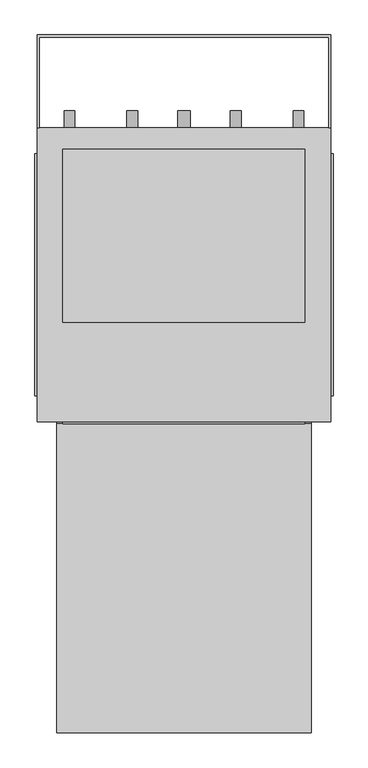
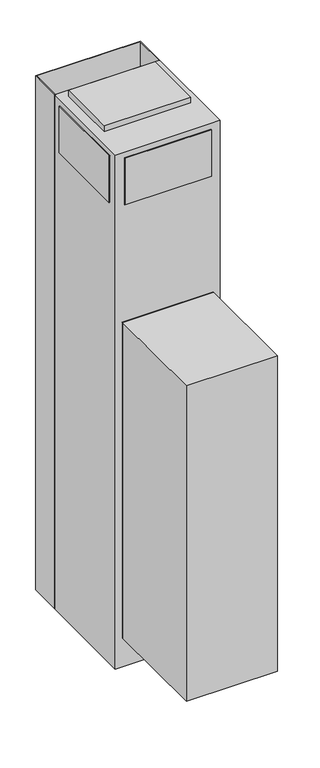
"""IFC4 building model written with IfcOpenShell, lengths in millimetres: proxy geometry, Exposed_Modular_Fan_Coil_Unit_-_MXY_-_IEC_-_4-Pipe_-_NoRisers_2022 : Size 03 - 277v/60Hz/1Ph - 4/1 Coil."""

from ifc_helpers import new_model, si_unit, point, frame, frame_2d, origin, origin_with_axes, place, context, project, spatial, polyline, circle_curve, trimmed, segment, composite_curve, outline, extrude, source, transform, mapped, element, save


def mechanical_equipment_4cf67427(model_context):
    return source(origin(), model_context, "Body", "SweptSolid", [
        extrude(outline(polyline([(1356.1480703, 439.8118862), (1346.2, 471.9852728), (1488.3709244, 471.9852728), (1465.3489183, 439.8118862), (1356.1480703, 439.8118862)])), frame((0.0, -193.675, 0.0), z_axis=(0.0, 1.0, 0.0), x_axis=(0.0, 0.0, 1.0)), (0.0, 0.0, 1.0), 3.175),
        extrude(outline(polyline([(1435.1473557, 478.7436058), (1431.9449632, 504.825), (1461.1738042, 504.825), (1469.2382193, 478.7436058), (1435.1473557, 478.7436058)])), frame((0.0, -193.675, 0.0), z_axis=(0.0, 1.0, 0.0), x_axis=(0.0, 0.0, 1.0)), (0.0, 0.0, 1.0), 3.175),
        extrude(outline(polyline([(1383.2838288, 504.825), (1379.6183279, 478.7436058), (1346.2, 478.7436058), (1354.8342372, 504.825), (1383.2838288, 504.825)])), frame((0.0, -193.675, 0.0), z_axis=(0.0, 1.0, 0.0), x_axis=(0.0, 0.0, 1.0)), (0.0, 0.0, 1.0), 3.175),
        extrude(outline(polyline([(1422.5989903, 504.825), (1424.8808166, 478.7436058), (1388.9432681, 478.7436058), (1391.6845331, 504.825), (1422.5989903, 504.825)])), frame((0.0, -193.675, 0.0), z_axis=(0.0, 1.0, 0.0), x_axis=(0.0, 0.0, 1.0)), (0.0, 0.0, 1.0), 3.175),
        extrude(outline(polyline([(555.625, -190.5), (555.625, -644.525), (180.975, -644.525), (180.975, -190.5), (555.625, -190.5)])), frame((0.0, 0.0, 127.0), z_axis=(0.0, 0.0, 1.0), x_axis=(1.0, 0.0, 0.0)), (0.0, 0.0, 1.0), 1371.6),
        extrude(outline(polyline([(152.4, 381.0), (584.2, 381.0), (584.2, 244.475), (581.025, 244.475), (581.025, 377.825), (155.575, 377.825), (155.575, 244.475), (152.4, 244.475), (152.4, 381.0)])), origin_with_axes(), (0.0, 0.0, 1.0), 2235.2),
        extrude(outline(composite_curve([segment(trimmed(circle_curve(frame_2d((990.6, 444.5)), 7.9375), [point((990.6, 452.4375))], [point((990.6, 436.5625))], False, "CARTESIAN"), True, "CONTINUOUS"), segment(trimmed(circle_curve(frame_2d((990.6, 444.5)), 7.9375), [point((990.6, 436.5625))], [point((990.6, 452.4375))], False, "CARTESIAN"), True, "CONTINUOUS")], self_intersect=False)), frame((0.0, 244.475, 0.0), z_axis=(0.0, 1.0, 0.0), x_axis=(0.0, 0.0, 1.0)), (0.0, 0.0, 1.0), 25.4),
        extrude(outline(composite_curve([segment(trimmed(circle_curve(frame_2d((990.6, 292.1)), 7.9375), [point((990.6, 300.0375))], [point((990.6, 284.1625))], False, "CARTESIAN"), True, "CONTINUOUS"), segment(trimmed(circle_curve(frame_2d((990.6, 292.1)), 7.9375), [point((990.6, 284.1625))], [point((990.6, 300.0375))], False, "CARTESIAN"), True, "CONTINUOUS")], self_intersect=False)), frame((0.0, 244.475, 0.0), z_axis=(0.0, 1.0, 0.0), x_axis=(0.0, 0.0, 1.0)), (0.0, 0.0, 1.0), 25.4),
        extrude(outline(composite_curve([segment(trimmed(circle_curve(frame_2d((76.2, 368.3)), 9.525), [point((76.2, 377.825))], [point((76.2, 358.775))], False, "CARTESIAN"), True, "CONTINUOUS"), segment(trimmed(circle_curve(frame_2d((76.2, 368.3)), 9.525), [point((76.2, 358.775))], [point((76.2, 377.825))], False, "CARTESIAN"), True, "CONTINUOUS")], self_intersect=False)), frame((0.0, 244.475, 0.0), z_axis=(0.0, 1.0, 0.0), x_axis=(0.0, 0.0, 1.0)), (0.0, 0.0, 1.0), 25.4),
        extrude(outline(composite_curve([segment(trimmed(circle_curve(frame_2d((990.6, 536.575)), 7.9375), [point((990.6, 544.5125))], [point((990.6, 528.6375))], False, "CARTESIAN"), True, "CONTINUOUS"), segment(trimmed(circle_curve(frame_2d((990.6, 536.575)), 7.9375), [point((990.6, 528.6375))], [point((990.6, 544.5125))], False, "CARTESIAN"), True, "CONTINUOUS")], self_intersect=False)), frame((0.0, 244.475, 0.0), z_axis=(0.0, 1.0, 0.0), x_axis=(0.0, 0.0, 1.0)), (0.0, 0.0, 1.0), 25.4),
        extrude(outline(composite_curve([segment(trimmed(circle_curve(frame_2d((990.6, 200.025)), 7.9375), [point((990.6, 207.9625))], [point((990.6, 192.0875))], False, "CARTESIAN"), True, "CONTINUOUS"), segment(trimmed(circle_curve(frame_2d((990.6, 200.025)), 7.9375), [point((990.6, 192.0875))], [point((990.6, 207.9625))], False, "CARTESIAN"), True, "CONTINUOUS")], self_intersect=False)), frame((0.0, 244.475, 0.0), z_axis=(0.0, 1.0, 0.0), x_axis=(0.0, 0.0, 1.0)), (0.0, 0.0, 1.0), 25.4),
        extrude(outline(polyline([(555.625, -190.5), (180.975, -190.5), (180.975, -187.325), (555.625, -187.325), (555.625, -190.5)])), frame((0.0, 0.0, 127.0), z_axis=(0.0, 0.0, 1.0), x_axis=(1.0, 0.0, 0.0)), (0.0, 0.0, 1.0), 1371.6),
        extrude(outline(polyline([(587.375, 206.375), (587.375, -149.225), (584.2, -149.225), (584.2, 206.375), (587.375, 206.375)])), frame((0.0, 0.0, 2006.6), z_axis=(0.0, 0.0, 1.0), x_axis=(1.0, 0.0, 0.0)), (0.0, 0.0, 1.0), 203.2),
        extrude(outline(polyline([(149.225, -149.225), (149.225, 206.375), (152.4, 206.375), (152.4, -149.225), (149.225, -149.225)])), frame((0.0, 0.0, 2006.6), z_axis=(0.0, 0.0, 1.0), x_axis=(1.0, 0.0, 0.0)), (0.0, 0.0, 1.0), 203.2),
        extrude(outline(polyline([(546.1, -190.5), (190.5, -190.5), (190.5, -187.325), (546.1, -187.325), (546.1, -190.5)])), frame((0.0, 0.0, 2006.6), z_axis=(0.0, 0.0, 1.0), x_axis=(1.0, 0.0, 0.0)), (0.0, 0.0, 1.0), 203.2),
        extrude(outline(polyline([(546.1, 212.725), (546.1, -41.275), (190.5, -41.275), (190.5, 212.725), (546.1, 212.725)])), frame((0.0, 0.0, 2235.2), z_axis=(0.0, 0.0, 1.0), x_axis=(1.0, 0.0, 0.0)), (0.0, 0.0, 1.0), 25.4),
        extrude(outline(polyline([(584.2, 244.475), (584.2, -187.325), (152.4, -187.325), (152.4, 244.475), (584.2, 244.475)])), origin_with_axes(), (0.0, 0.0, 1.0), 2235.2),
    ])


if __name__ == "__main__":
    model = new_model("IFC4")
    model_context = context("Model", 3, world=origin())
    ifc_project = project(units=[si_unit("LENGTHUNIT", "METRE", prefix="MILLI")], contexts=[model_context])
    site = spatial("IfcSite", under=ifc_project)
    building = spatial("IfcBuilding", under=site)
    placement = place(None, origin())
    mechanical_equipment_shape = mechanical_equipment_4cf67427(model_context)
    element("IfcBuildingElementProxy", 1, Name="Exposed_Modular_Fan_Coil_Unit_-_MXY_-_IEC_-_4-Pipe_-_NoRisers_2022 : Size 03 - 277v/60Hz/1Ph - 4/1 Coil", ObjectType="Exposed_Modular_Fan_Coil_Unit_-_MXY_-_IEC_-_4-Pipe_-_NoRisers_2022 : Size 03 - 277v/60Hz/1Ph - 4/1 Coil", at=placement, inside=building, context=model_context, shape_type="MappedRepresentation", body=[
        mapped(mechanical_equipment_shape, transform((0.0, 0.0, 0.0), x_axis=(1.0, 0.0, 0.0), y_axis=(0.0, 1.0, 0.0), z_axis=(0.0, 0.0, 1.0))),
    ])
    save(model, "model.ifc")
